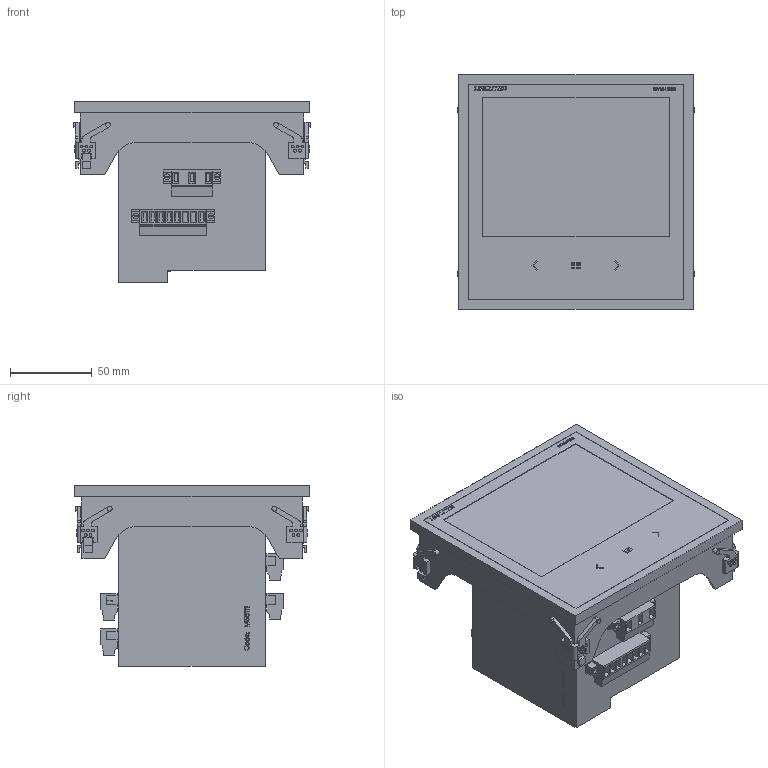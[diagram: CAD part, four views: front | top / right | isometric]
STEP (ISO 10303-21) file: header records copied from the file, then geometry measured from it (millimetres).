
FILE_DESCRIPTION((''),'2;1');
FILE_NAME('PRT0002','2017-09-08T',('bcollados'),(''),'CREO PARAMETRIC BY PTC INC, 2015290','CREO PARAMETRIC BY PTC INC, 2015290','');
FILE_SCHEMA(('AUTOMOTIVE_DESIGN { 1 0 10303 214 1 1 1 1 }'));
Length unit declared in the file: metre
Products named in the file (1): PRT0002
Bounding box: 145.4 x 144 x 111 mm (x, y, z)
Surface area: 124002.5 mm2 (no closed solid volume)
Topology: 0 solids, 72 shells, 851 faces, 4190 edges, 3523 vertices
Faces by surface type: plane 627, cylinder 208, bspline 16
Entity records: 50034 total; most frequent: CARTESIAN_POINT 9333, DIRECTION 6330, ORIENTED_EDGE 6094, EDGE_CURVE 4190, VECTOR 3568, LINE 3568, VERTEX_POINT 3523, COLOUR_RGB 1576
